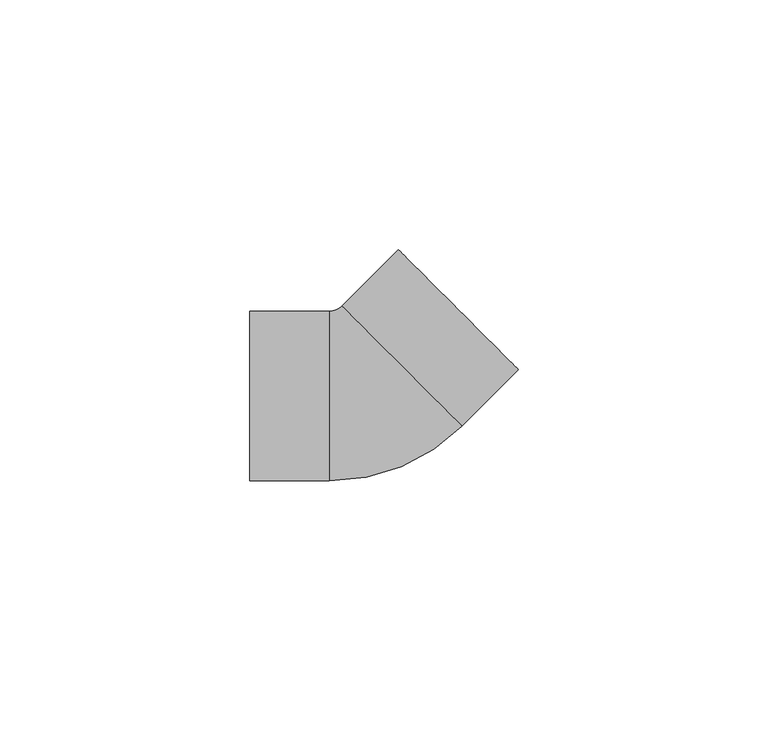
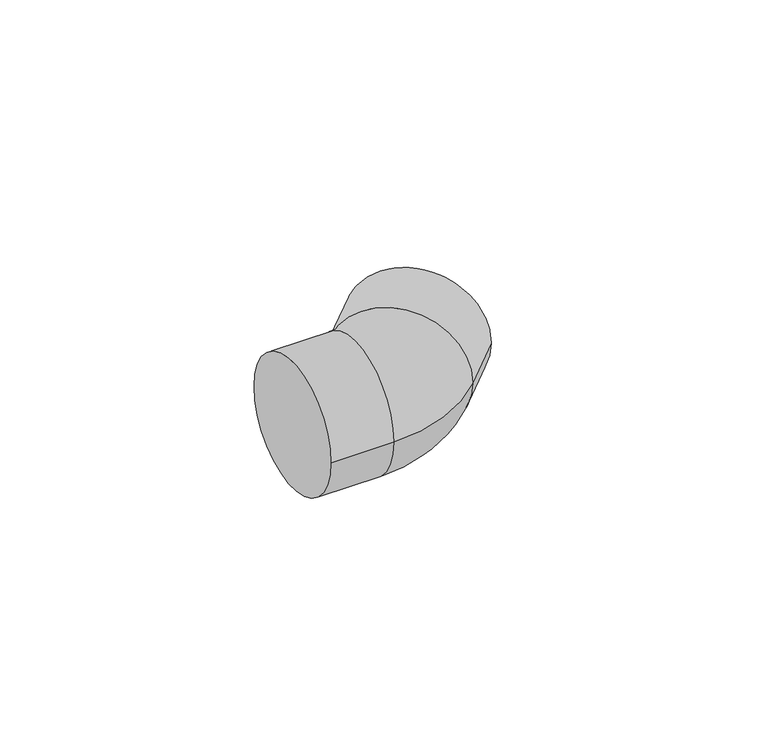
"""IFC4 building model written with IfcOpenShell, lengths in millimetres: pipe fitting geometry, NIRON RED termofusion codo : Estándar."""

from ifc_helpers import new_model, si_unit, point, frame, origin, place, context, project, spatial, circle_curve, ellipse_curve, trimmed, source, transform, mapped, element, save
from ifc_brep_helpers import plane_surface, cylinder_surface, revolved_surface, advanced_brep


def pipe_fitting_b840f4ad(model_context):
    return source(origin(), model_context, "Body", "AdvancedBrep", [
        advanced_brep(
        [(-24.5, -17.0, 0.0), (-24.5, 17.0, 0.0), (-8.5, -17.0, 0.0), (-8.5, 17.0, 0.0), (-6.0104076, 18.0312229, 0.0), (18.0312229, -6.0104076, 0.0), (6.0104076, 6.0104076, 17.0), (6.0104076, 6.0104076, -17.0), (29.3449314, 5.3033009, 0.0), (5.3033009, 29.3449314, 0.0)],
        [
            (0, 1, circle_curve(frame((-24.5, 0.0, 0.0), z_axis=(-1.0, 0.0, 0.0), x_axis=(0.0, 1.0, 0.0)), 17.0)),
            (1, 0, circle_curve(frame((-24.5, 0.0, 0.0), z_axis=(-1.0, 0.0, 0.0), x_axis=(0.0, 1.0, 0.0)), 17.0)),
            (0, 2),
            (2, 3, circle_curve(frame((-8.5, 0.0, 0.0), z_axis=(-1.0, 0.0, 0.0), x_axis=(0.0, 1.0, 0.0)), 17.0)),
            (3, 1),
            (3, 2, circle_curve(frame((-8.5, 0.0, 0.0), z_axis=(-1.0, 0.0, 0.0), x_axis=(0.0, 1.0, 0.0)), 17.0)),
            (4, 3, circle_curve(frame((-8.5, 20.5208153, 0.0), z_axis=(0.0, 0.0, -1.0), x_axis=(0.0, -1.0, 0.0)), 3.5208153)),
            (2, 5, circle_curve(frame((-8.5, 20.5208153, 0.0), z_axis=(0.0, 0.0, 1.0), x_axis=(0.0, -1.0, 0.0)), 37.5208153)),
            (5, 6, circle_curve(frame((6.0104076, 6.0104076, 0.0), z_axis=(-0.7071067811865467, -0.7071067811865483, 0.0), x_axis=(-0.7071067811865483, 0.7071067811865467, 0.0)), 17.0)),
            (6, 4, circle_curve(frame((6.0104076, 6.0104076, 0.0), z_axis=(-0.7071067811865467, -0.7071067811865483, 0.0), x_axis=(-0.7071067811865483, 0.7071067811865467, 0.0)), 17.0)),
            (4, 7, circle_curve(frame((6.0104076, 6.0104076, 0.0), z_axis=(-0.7071067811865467, -0.7071067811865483, 0.0), x_axis=(-0.7071067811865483, 0.7071067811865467, 0.0)), 17.0)),
            (7, 5, circle_curve(frame((6.0104076, 6.0104076, 0.0), z_axis=(-0.7071067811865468, -0.7071067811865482, 0.0), x_axis=(-0.7071067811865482, 0.7071067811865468, 0.0)), 17.0)),
            (8, 9, circle_curve(frame((17.3241161, 17.3241161, 0.0), z_axis=(0.7071067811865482, 0.7071067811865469, 0.0), x_axis=(-0.7071067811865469, 0.7071067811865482, 0.0)), 17.0)),
            (9, 8, circle_curve(frame((17.3241161, 17.3241161, 0.0), z_axis=(0.7071067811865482, 0.7071067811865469, 0.0), x_axis=(-0.7071067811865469, 0.7071067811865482, 0.0)), 17.0)),
            (9, 4),
            (5, 8),
        ],
        [
            plane_surface(frame((-24.5, 0.0, 0.0), z_axis=(-1.0, 0.0, 0.0), x_axis=(0.0, 0.0, 1.0))),
            cylinder_surface(frame((-24.5, 0.0, 0.0), z_axis=(-1.0, 0.0, 0.0), x_axis=(0.0, 1.0, 0.0)), 17.0),
            revolved_surface(trimmed(ellipse_curve(frame((-8.5, 0.0, 0.0), z_axis=(-1.0, 0.0, 0.0), x_axis=(0.0, 1.0, 0.0)), 17.0, 17.0), [point((-8.5, -17.0, 0.0))], [point((-8.5, 17.0, 0.0))], True, "CARTESIAN"), (-8.5, 20.5208153, 0.0), (0.0, 0.0, 1.0)),
            revolved_surface(trimmed(ellipse_curve(frame((-8.5, 0.0, 0.0), z_axis=(-1.0, 0.0, 0.0), x_axis=(0.0, 1.0, 0.0)), 17.0, 17.0), [point((-8.5, 17.0, 0.0))], [point((-8.5, -17.0, 0.0))], True, "CARTESIAN"), (-8.5, 20.5208153, 0.0), (0.0, 0.0, 1.0)),
            plane_surface(frame((17.3241161, 17.3241161, 0.0), z_axis=(0.7071067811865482, 0.7071067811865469, 0.0), x_axis=(0.0, 0.0, 1.0))),
            cylinder_surface(frame((6.0104076, 6.0104076, 0.0), z_axis=(-0.7071067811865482, -0.7071067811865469, 0.0), x_axis=(-0.7071067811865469, 0.7071067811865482, 0.0)), 17.0),
        ],
        [
            (0, [[1, 2]]),
            (1, [[-1, 3, 4, 5]]),
            (1, [[-2, -5, 6, -3]]),
            (2, [[7, -4, 8, 9, 10]]),
            (3, [[-7, 11, 12, -8, -6]]),
            (4, [[13, 14]]),
            (5, [[-14, 15, -10, -9, 16]]),
            (5, [[-13, -16, -12, -11, -15]]),
        ],
    ),
    ])


if __name__ == "__main__":
    model = new_model("IFC4")
    model_context = context("Model", 3, world=origin())
    ifc_project = project(units=[si_unit("LENGTHUNIT", "METRE", prefix="MILLI")], contexts=[model_context])
    site = spatial("IfcSite", under=ifc_project)
    building = spatial("IfcBuilding", under=site)
    placement = place(None, origin())
    pipe_fitting_shape = pipe_fitting_b840f4ad(model_context)
    element("IfcPipeFitting", 1, ObjectType="NIRON RED termofusion codo : Estándar", at=placement, inside=building, context=model_context, shape_type="MappedRepresentation", body=[
        mapped(pipe_fitting_shape, transform((0.0, 0.0, 0.0), x_axis=(1.0, 0.0, 0.0), y_axis=(0.0, 1.0, 0.0), z_axis=(0.0, 0.0, 1.0))),
    ])
    save(model, "model.ifc")
